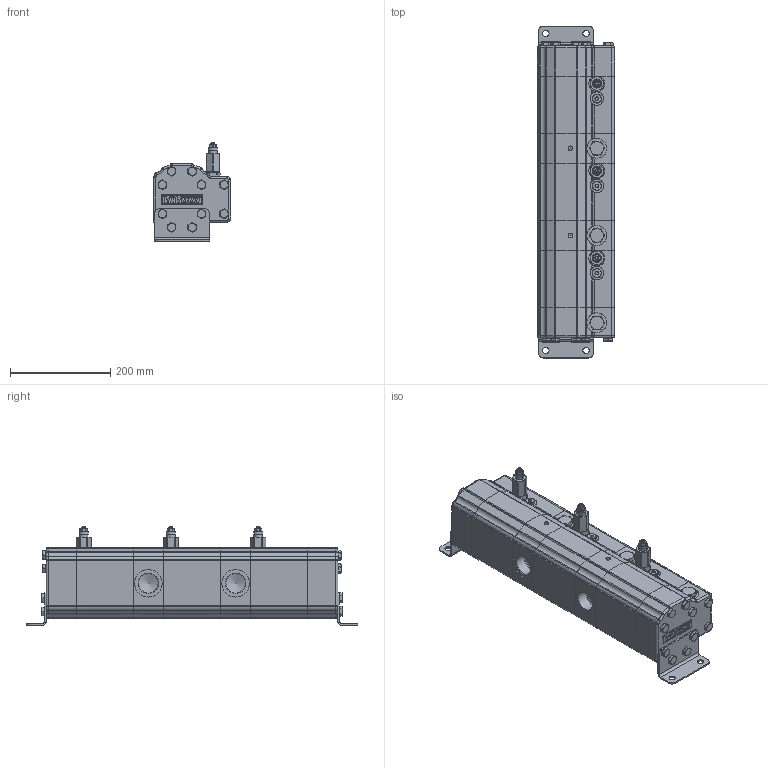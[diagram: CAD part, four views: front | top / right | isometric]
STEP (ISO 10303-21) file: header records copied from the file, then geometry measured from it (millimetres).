
FILE_DESCRIPTION(/* description */ ('Unknown'),/* implementation_level */ '2;1');
FILE_NAME(/* name */ '9V03-87',/* time_stamp */ '2020-04-18T11:45:23+02:00',/* author */ ('Unknown'),/* organization */ ('Unknown'),/* preprocessor_version */ 'ST-DEVELOPER v16.7',/* originating_system */ 'DEX',/* authorisation */ $);
FILE_SCHEMA (('AUTOMOTIVE_DESIGN {1 0 10303 214 3 1 1}'));
Products named in the file (1): XV-3V
Bounding box: 155 x 662 x 197 mm (x, y, z)
Volume: 10717193.4 mm3; surface area: 424156.5 mm2
Topology: 1 solids, 1 shells, 1299 faces, 3171 edges, 1932 vertices
Faces by surface type: plane 595, cylinder 504, cone 93, bspline 72, torus 35
Full cylindrical faces by diameter (mm): 8 x3, 8.376 x4, 12.5 x4, 16 x20, 17 x3, 18 x6, 26.5 x6, 27 x3, 30.291 x8, 38.952 x4, 40 x3, 50 x1, 55 x5
Entity records: 56199 total; most frequent: CARTESIAN_POINT 18333, ORIENTED_EDGE 5908, DIRECTION 5784, EDGE_CURVE 2954, AXIS2_PLACEMENT_3D 2180, VERTEX_POINT 1889, FACE_BOUND 1539, EDGE_LOOP 1531
